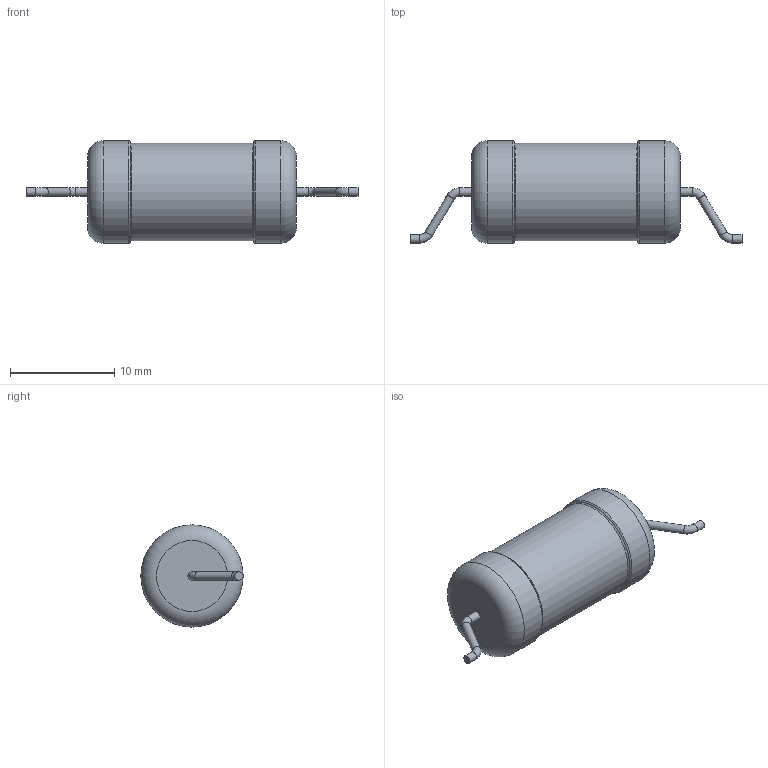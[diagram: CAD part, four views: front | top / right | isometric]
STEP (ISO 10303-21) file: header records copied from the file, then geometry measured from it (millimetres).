
FILE_DESCRIPTION(('STEP AP203'), '1');
FILE_NAME('Ñ2-29Â-1(3)', '', ('UNSPECIFIED'), ('UNSPECIFIED'), 'ASCON STEP Converter 1.6', 'ASCON Math Kernel', '');
FILE_SCHEMA(('CONFIG_CONTROL_DESIGN'));
Length unit declared in the file: millimetre
Bounding box: 31.8 x 9.8 x 9.8 mm (x, y, z)
Volume: 1404.8 mm3; surface area: 755.6 mm2
Topology: 1 solids, 1 shells, 23 faces, 41 edges, 22 vertices
Faces by surface type: torus 10, cylinder 9, plane 4
Full cylindrical faces by diameter (mm): 0.8 x6, 9.326 x1, 9.8 x2
Entity records: 682 total; most frequent: DIRECTION 92, CARTESIAN_POINT 68, AXIS2_PLACEMENT_3D 46, EDGE_LOOP 44, ORIENTED_EDGE 44, FACE_OUTER_BOUND 38, COLOUR_RGB 24, FILL_AREA_STYLE_COLOUR 24
